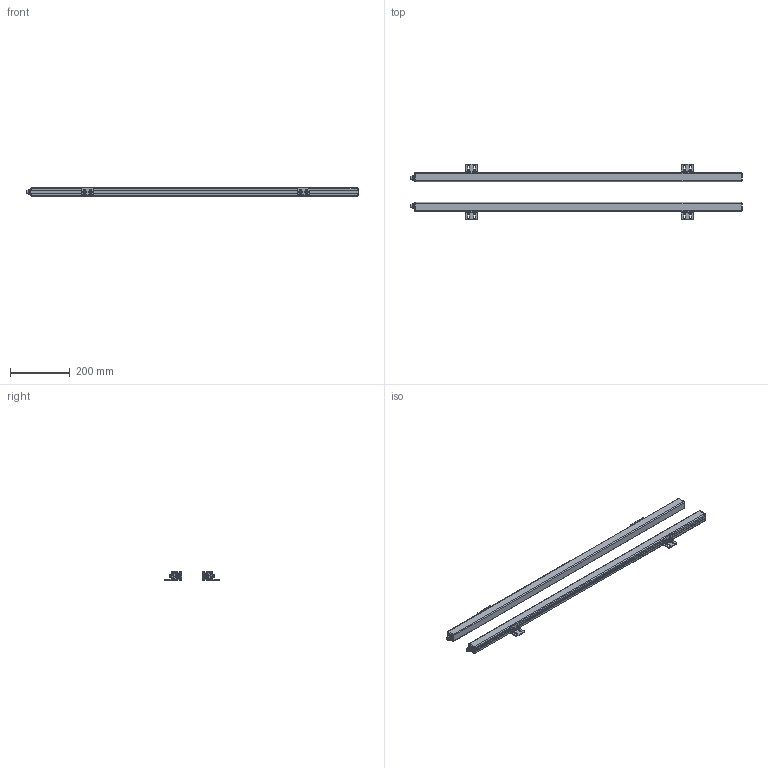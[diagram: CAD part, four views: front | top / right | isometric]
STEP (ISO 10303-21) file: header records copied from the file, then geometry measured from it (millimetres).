
FILE_DESCRIPTION( ( 'STEP AP203' ), '1' );
FILE_NAME( 'p:/temp/worker_27/temp/exporttempdir_2664_254_AqjZJ/format_0/OY5106.stp', '2021-10-15T07:36:18', ( 'License CC BY-ND 4.0' ), ( 'CADENAS' ), ' ', 'PARTsolutions', ' ' );
FILE_SCHEMA( ( 'CONFIG_CONTROL_DESIGN' ) );
Length unit declared in the file: millimetre
Products named in the file (3): OY5106; _OY5106_P1; _OY5106_P2
Assembly tree (2 placements, depth 2):
  OY5106
    _OY5106_P1
    _OY5106_P2
Bounding box: 1113 x 186 x 28 mm (x, y, z)
Volume: 1778046.7 mm3; surface area: 296123 mm2
Topology: 2 solids, 2 shells, 744 faces, 1902 edges, 1216 vertices
Faces by surface type: plane 470, cylinder 244, torus 28, cone 2
Full cylindrical faces by diameter (mm): 5 x32, 8.4 x2, 9.6 x8, 10.5 x2, 11.44 x8, 12 x2, 18 x2
Entity records: 22188 total; most frequent: CARTESIAN_POINT 3967, DIRECTION 3810, ORIENTED_EDGE 3612, EDGE_CURVE 1806, AXIS2_PLACEMENT_3D 1289, LINE 1232, VECTOR 1232, VERTEX_POINT 1206
